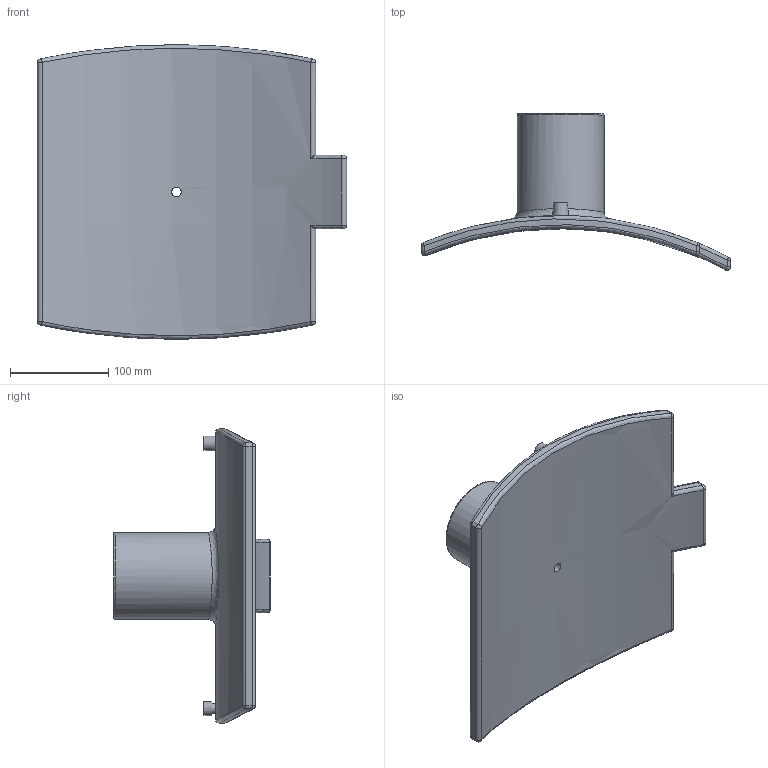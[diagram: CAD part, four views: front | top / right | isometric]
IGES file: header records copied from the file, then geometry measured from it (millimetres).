
Global section: file name: 5958BB03280030.ipt; native system: Autodesk Inventor 2019; preprocessor: unknown; author: KIM; date: 20210830.101231; units: inch
Bounding box: 314.96 x 159.67 x 299.9 mm (x, y, z)
Volume: 1359994 mm3; surface area: 241936.4 mm2
Topology: 2 solids, 2 shells, 66 faces, 132 edges, 78 vertices
Faces by surface type: cylinder 22, plane 14, sphere 12, revolution 11, bspline 5, cone 2
Full cylindrical faces by diameter (mm): 4 x2, 16 x1, 88.7 x1
